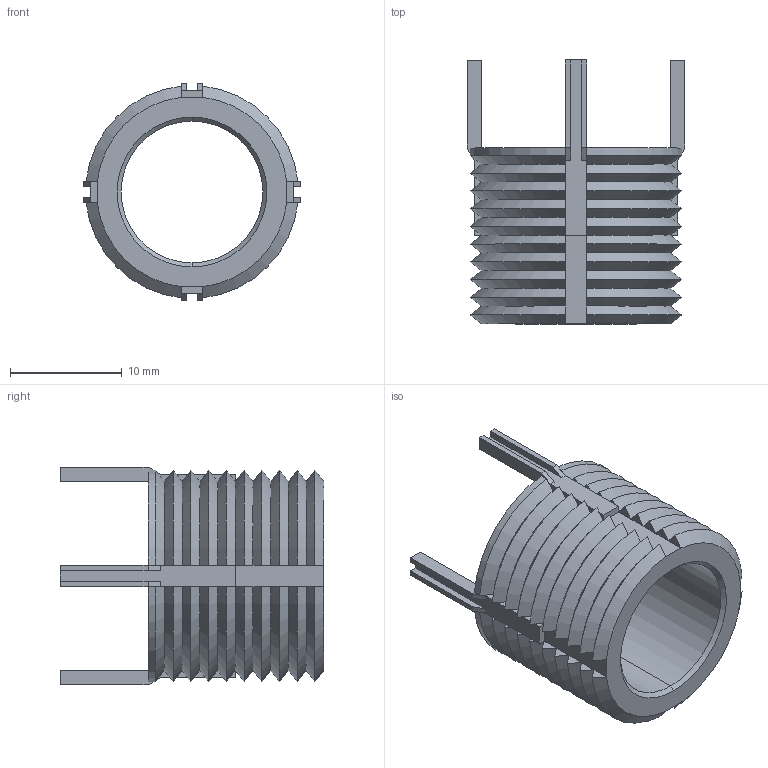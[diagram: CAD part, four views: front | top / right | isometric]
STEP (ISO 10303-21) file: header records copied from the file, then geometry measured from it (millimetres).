
FILE_DESCRIPTION (( 'STEP AP203' ), '1' );
FILE_NAME ('TR1565.66506.step', '2023-03-29T14:33:44', ( '' ), ( '' ), 'SwSTEP 2.0', 'SolidWorks 2019', '' );
FILE_SCHEMA (( 'CONFIG_CONTROL_DESIGN' ));
Length unit declared in the file: inch
Products named in the file (3): TR1565.66506; Part2_TR1565.66506; Part1_TR1565.66506
Assembly tree (5 placements, depth 2):
  TR1565.66506
    Part1_TR1565.66506
    Part2_TR1565.66506  x4
Bounding box: 19.5 x 23.62 x 19.5 mm (x, y, z)
Volume: 2086.6 mm3; surface area: 2687.4 mm2
Topology: 5 solids, 5 shells, 220 faces, 474 edges, 264 vertices
Faces by surface type: plane 134, cone 80, cylinder 6
Entity records: 5691 total; most frequent: CARTESIAN_POINT 1692, ORIENTED_EDGE 768, DIRECTION 708, EDGE_CURVE 384, AXIS2_PLACEMENT_3D 284, VERTEX_POINT 204, EDGE_LOOP 186, FACE_OUTER_BOUND 184
